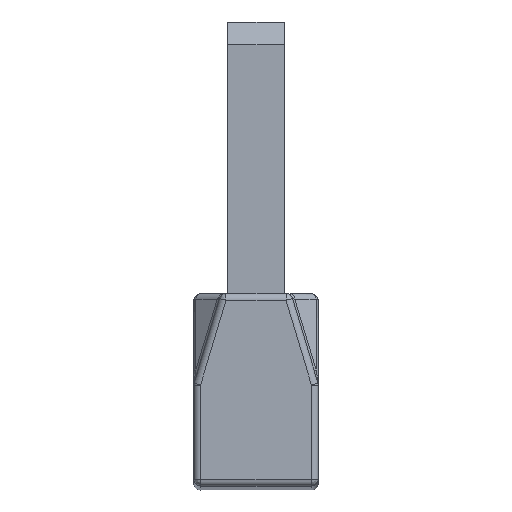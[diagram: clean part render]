
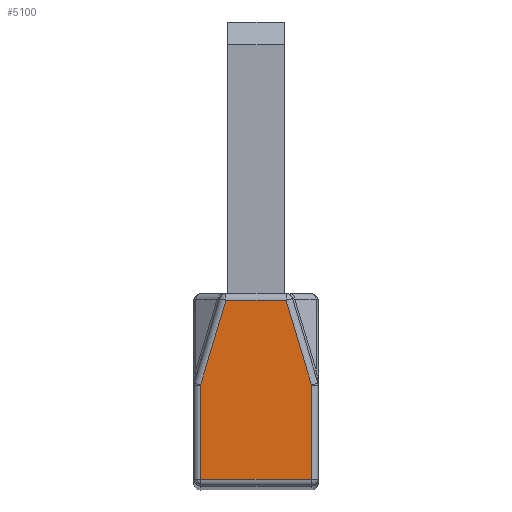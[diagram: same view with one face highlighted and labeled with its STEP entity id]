
A CAD part, top view. The second image highlights one B-rep face of the part: STEP entity #5100.
In plain terms, the highlighted planar face has unit normal (0, 0, 1).
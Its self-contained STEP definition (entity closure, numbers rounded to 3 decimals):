
#2514 = CARTESIAN_POINT ( 'NONE',  ( 0.224, 6.023, 0. ) ) ;
#2558 = CARTESIAN_POINT ( 'NONE',  ( 1.347, 2.279, 0. ) ) ;
#2565 = CARTESIAN_POINT ( 'NONE',  ( -2.43, 6.023, 0. ) ) ;
#2716 = CARTESIAN_POINT ( 'NONE',  ( 1.347, -1.877, 0. ) ) ;
#4605 = EDGE_CURVE ( 'NONE', #7529, #7498, #9533, .T. ) ;
#4611 = EDGE_CURVE ( 'NONE', #7478, #7492, #9589, .T. ) ;
#4619 = EDGE_CURVE ( 'NONE', #7492, #4620, #9575, .T. ) ;
#4620 = VERTEX_POINT ( 'NONE', #9563 ) ;
#4649 = EDGE_CURVE ( 'NONE', #4650, #7529, #9654, .T. ) ;
#4650 = VERTEX_POINT ( 'NONE', #9645 ) ;
#4665 = EDGE_CURVE ( 'NONE', #7498, #7478, #9687, .T. ) ;
#5079 = ORIENTED_EDGE ( 'NONE', *, *, #5080, .T. ) ;
#5080 = EDGE_CURVE ( 'NONE', #4620, #4650, #10416, .T. ) ;
#5081 = ORIENTED_EDGE ( 'NONE', *, *, #4649, .T. ) ;
#5100 = ADVANCED_FACE ( 'NONE', ( #10547 ), #10542, .T. ) ;
#5101 = EDGE_LOOP ( 'NONE', ( #5102, #5103, #5104, #5105, #5079, #5081 ) ) ;
#5102 = ORIENTED_EDGE ( 'NONE', *, *, #4605, .T. ) ;
#5103 = ORIENTED_EDGE ( 'NONE', *, *, #4665, .T. ) ;
#5104 = ORIENTED_EDGE ( 'NONE', *, *, #4611, .T. ) ;
#5105 = ORIENTED_EDGE ( 'NONE', *, *, #4619, .T. ) ;
#7478 = VERTEX_POINT ( 'NONE', #2514 ) ;
#7492 = VERTEX_POINT ( 'NONE', #2565 ) ;
#7498 = VERTEX_POINT ( 'NONE', #2558 ) ;
#7529 = VERTEX_POINT ( 'NONE', #2716 ) ;
#9533 = LINE ( 'NONE', #9593, #9592 ) ;
#9563 = CARTESIAN_POINT ( 'NONE',  ( -3.553, 2.279, 0. ) ) ;
#9567 = DIRECTION ( 'NONE',  ( -0.287, -0.958, 0. ) ) ;
#9568 = VECTOR ( 'NONE', #9567, 1000. ) ;
#9569 = CARTESIAN_POINT ( 'NONE',  ( -2.43, 6.023, 0. ) ) ;
#9575 = LINE ( 'NONE', #9569, #9568 ) ;
#9581 = DIRECTION ( 'NONE',  ( -1., 0., 0. ) ) ;
#9582 = VECTOR ( 'NONE', #9581, 1000. ) ;
#9583 = CARTESIAN_POINT ( 'NONE',  ( -1.103, 6.023, 0. ) ) ;
#9589 = LINE ( 'NONE', #9583, #9582 ) ;
#9591 = DIRECTION ( 'NONE',  ( 0., 1., 0. ) ) ;
#9592 = VECTOR ( 'NONE', #9591, 1000. ) ;
#9593 = CARTESIAN_POINT ( 'NONE',  ( 1.347, 2.073, 0. ) ) ;
#9645 = CARTESIAN_POINT ( 'NONE',  ( -3.553, -1.877, 0. ) ) ;
#9646 = DIRECTION ( 'NONE',  ( 1., 0., 0. ) ) ;
#9647 = VECTOR ( 'NONE', #9646, 1000. ) ;
#9648 = CARTESIAN_POINT ( 'NONE',  ( -1.103, -1.877, 0. ) ) ;
#9654 = LINE ( 'NONE', #9648, #9647 ) ;
#9684 = DIRECTION ( 'NONE',  ( -0.287, 0.958, 0. ) ) ;
#9685 = VECTOR ( 'NONE', #9684, 1000. ) ;
#9686 = CARTESIAN_POINT ( 'NONE',  ( 1.347, 2.279, 0. ) ) ;
#9687 = LINE ( 'NONE', #9686, #9685 ) ;
#10039 = VECTOR ( 'NONE', #10221, 1000. ) ;
#10040 = CARTESIAN_POINT ( 'NONE',  ( -3.553, 0.201, 0. ) ) ;
#10221 = DIRECTION ( 'NONE',  ( 0., -1., 0. ) ) ;
#10416 = LINE ( 'NONE', #10040, #10039 ) ;
#10538 = DIRECTION ( 'NONE',  ( 1., 0., 0. ) ) ;
#10539 = DIRECTION ( 'NONE',  ( 0., 0., 1. ) ) ;
#10540 = CARTESIAN_POINT ( 'NONE',  ( -3.553, -1.877, 0. ) ) ;
#10541 = AXIS2_PLACEMENT_3D ( 'NONE', #10540, #10539, #10538 ) ;
#10542 = PLANE ( 'NONE',  #10541 ) ;
#10547 = FACE_OUTER_BOUND ( 'NONE', #5101, .T. ) ;
